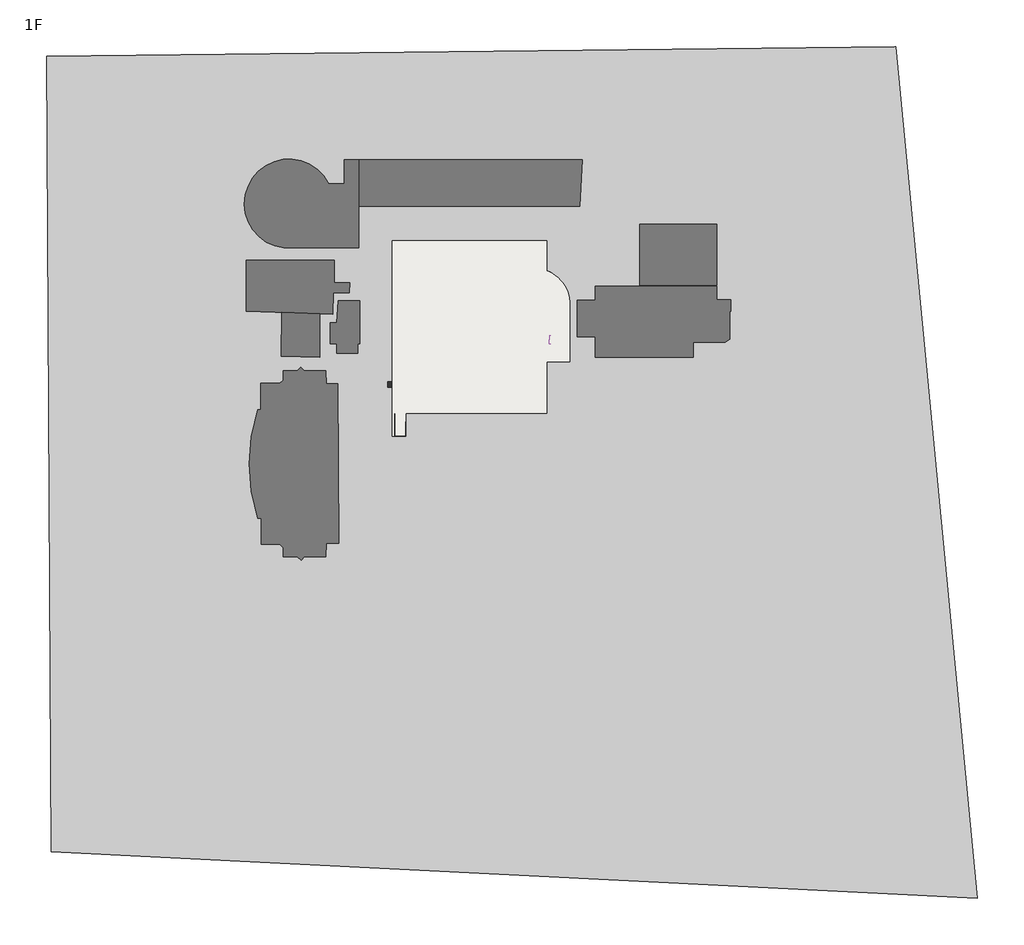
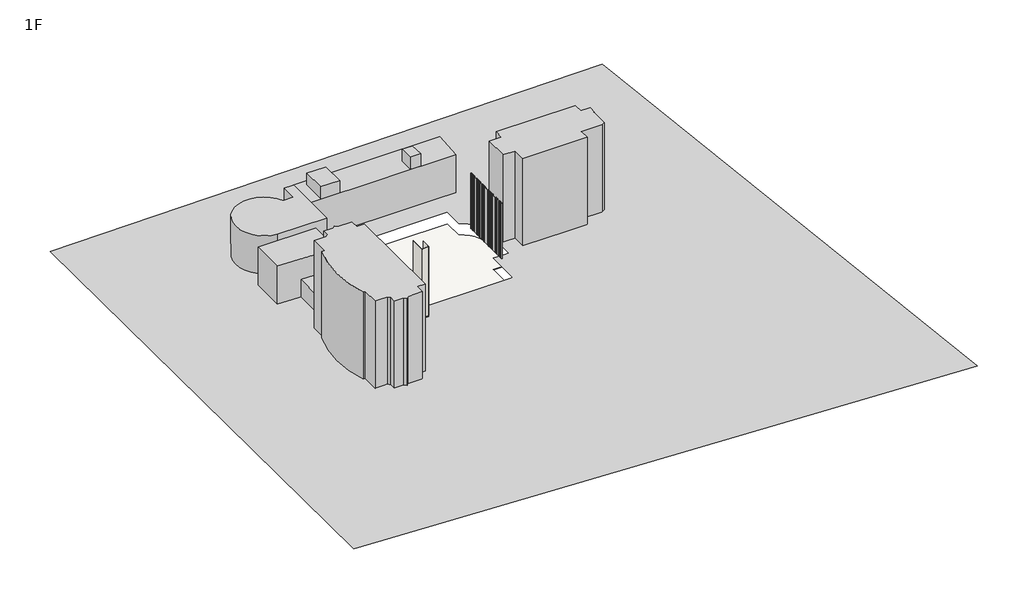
# One storey, incomplete: 4 walls, 1 geographic element, 1 proxy, 1 railing, 1 slab.
"""IFC4 building model written with IfcOpenShell, lengths in millimetres."""

from ifc_helpers import new_model, si_unit, point, frame, frame_2d, origin, place, context, project, spatial, polyline, circle_curve, trimmed, segment, composite_curve, outline, extrude, faceted_brep, triangles, transform, mapped, element, save
from components import geographic_element_4dbcac5b, railing_ae81b5d6, wall_d95d6aa4

model = new_model("IFC4")

# Units and contexts
model_context = context("Model", 3, world=origin())
ifc_project = project(units=[si_unit("LENGTHUNIT", "METRE", prefix="MILLI")], contexts=[model_context])

# Site, building, storey
site = spatial("IfcSite", under=ifc_project)
building = spatial("IfcBuilding", under=site)
storey = spatial("IfcBuildingStorey", under=building, Name="1F", Elevation=0.0)

# Proxy
placement = place(None, origin())
element("IfcBuildingElementProxy", 1, Name="Building Element Proxy", at=placement, inside=storey, context=model_context, shape_type="Tessellation", body=[
    triangles([(-117111.3074707, 82250.0307129, 0.0), (-115799.9549561, -151345.3015869, 0.0), (156268.6568848, -165068.0639648, 0.0), (132321.1790771, 85087.4203125, 0.0), (29890.8685181, 28220.0960815, 0.0), (29890.8685181, 19305.851825, 0.0), (30803.2546875, 18894.3222931, 0.0), (31673.8364319, 18400.4710419, 0.0), (32495.2072266, 17828.5001404, 0.0), (33260.3814514, 17183.2778961, 0.0), (33962.8455505, 16470.2923462, 0.0), (34596.6208191, 15695.6117249, 0.0), (35156.3168884, 14865.8274902, 0.0), (35637.173584, 13987.9996765, 0.0), (36035.0934814, 13069.5975952, 0.0), (36346.6953918, 12118.4370483, 0.0), (36569.3259888, 11142.6094025, 0.0), (36701.0900391, 10150.4199646, 0.0), (36740.8690063, 9150.3094986, 0.0), (36740.8690063, -5990.3215668, 0.0), (36740.8690063, -7639.9051804, 0.0), (35009.7351379, -7639.9051804, 0.0), (29890.8685181, -7639.9051804, 0.0), (29890.8685181, -12517.6336121, 0.0), (29890.8685181, -13279.9045258, 0.0), (29890.8685181, -22779.9048889, 0.0), (19121.2677429, -22779.9048889, 0.0), (-11409.1315063, -22779.9048889, 0.0), (-11409.1315063, -29479.9052307, 0.0), (-15759.1311035, -29479.9052307, 0.0), (-15759.1311035, 28220.0960815, 0.0)], [[1, 2, 30], [30, 2, 29], [27, 29, 26], [22, 24, 25], [26, 29, 3], [27, 28, 29], [29, 2, 3], [4, 1, 31], [1, 30, 31], [7, 8, 5], [5, 6, 7], [8, 9, 5], [22, 23, 24], [4, 31, 5], [25, 26, 21], [4, 16, 17], [17, 18, 4], [20, 21, 4], [21, 22, 25], [4, 19, 20], [19, 4, 18], [26, 3, 21], [3, 4, 21], [13, 5, 12], [11, 5, 10], [5, 11, 12], [14, 15, 4], [4, 5, 13], [4, 13, 14], [15, 16, 4], [10, 5, 9]], closed=False),
])

# Geographic element
geographic_element_shape = geographic_element_4dbcac5b(model_context)
element("IfcGeographicElement", 2, ObjectType="建物1 : 建物1", at=placement, inside=storey, context=model_context, shape_type="MappedRepresentation", body=[
    mapped(geographic_element_shape, transform((0.0, 0.0, 0.0), x_axis=(1.0, 0.0, 0.0), y_axis=(0.0, 1.0, 0.0), z_axis=(0.0, 0.0, 1.0))),
])

# Railing
railing_shape = railing_ae81b5d6(model_context)
element("IfcRailing", 3, ObjectType="東向隔柵2 : 東向隔柵", at=placement, inside=storey, context=model_context, shape_type="MappedRepresentation", body=[
    mapped(railing_shape, transform((0.0, 0.0, 0.0), x_axis=(1.0, 0.0, 0.0), y_axis=(0.0, 1.0, 0.0), z_axis=(0.0, 0.0, 1.0))),
])

# Slab
element("IfcSlab", 4, ObjectType="建築地坪 1", at=placement, inside=storey, context=model_context, shape_type="SweptSolid", body=[
    extrude(outline(composite_curve([segment(polyline([(29890.8689947, 28220.0950739), (29890.8689947, 19305.8523583)]), True, "CONTINUOUS"), segment(trimmed(circle_curve(frame_2d((25890.4739475, 9219.5888409)), 10850.6162164), [point((29890.8689947, 19305.8523583))], [point((36740.8689947, 9150.309724))], False, "CARTESIAN"), True, "CONTINUOUS"), segment(polyline([(36740.8689947, 9150.309724), (36740.8689947, -7639.9049261), (29890.8689947, -7639.9049261), (29890.8689947, -13279.9049261), (29890.8689947, -22779.9049261), (-11409.1310053, -22779.9049261), (-11409.1310053, -29479.9049261), (-15759.1310053, -29479.9049261), (-15759.1310053, 28220.0950739), (29890.8689947, 28220.0950739)]), True, "CONTINUOUS")], self_intersect=False)), frame((0.0, 0.0, -5600.0), z_axis=(0.0, 0.0, 1.0), x_axis=(1.0, 0.0, 0.0)), (0.0, 0.0, 1.0), 100.0),
])

# Walls
element("IfcWall", 5, ObjectType="金屬網", at=placement, inside=storey, context=model_context, shape_type="Brep", body=[
    faceted_brep([(-14836.6310056, -22779.9049261, 500.0), (-14836.6310056, -29407.4049261, 500.0), (-14836.6310056, -29407.4049261, 33250.0), (-14836.6310056, -22779.9049261, 33250.0), (-14831.6310056, -22779.9049261, 500.0), (-14831.6310056, -22779.9049261, 33250.0), (-14831.6310056, -29402.4049261, 33250.0), (-14831.6310056, -29407.4049261, 33250.0), (-14831.6310056, -29407.4049261, 500.0), (-14831.6310056, -29402.4049261, 500.0)], [[[0, 1, 2, 3]], [[4, 5, 6, 7, 8, 9]], [[1, 0, 4, 9, 8]], [[3, 2, 7, 6, 5]], [[0, 3, 5, 4]], [[2, 1, 8, 7]]]),
])
element("IfcWall", 6, ObjectType="金屬網", at=placement, inside=storey, context=model_context, shape_type="Brep", body=[
    faceted_brep([(-14831.6310056, -29407.4049261, 500.0), (-11681.6310053, -29407.4049261, 500.0), (-11681.6310053, -29407.4049261, 33250.0), (-14831.6310056, -29407.4049261, 33250.0), (-14831.6310056, -29402.4049261, 500.0), (-14831.6310056, -29402.4049261, 33250.0), (-11686.6310053, -29402.4049261, 33250.0), (-11681.6310053, -29402.4049261, 33250.0), (-11681.6310053, -29402.4049261, 500.0), (-11686.6310053, -29402.4049261, 500.0)], [[[0, 1, 2, 3]], [[4, 5, 6, 7, 8, 9]], [[0, 3, 5, 4]], [[1, 0, 4, 9, 8]], [[3, 2, 7, 6, 5]], [[2, 1, 8, 7]]]),
])
element("IfcWall", 7, ObjectType="金屬網", at=placement, inside=storey, context=model_context, shape_type="SweptSolid", body=[
    extrude(outline(polyline([(-11681.6310053, -25029.9049261), (-11681.6310053, -29402.4049261), (-11686.6310053, -29402.4049261), (-11686.6310053, -25029.9049261), (-11681.6310053, -25029.9049261)])), frame((0.0, 0.0, 500.0), z_axis=(0.0, 0.0, 1.0), x_axis=(1.0, 0.0, 0.0)), (0.0, 0.0, 1.0), 32750.0),
])
wall_shape = wall_d95d6aa4(model_context)
element("IfcWall", 8, ObjectType="消防土地公 : 消防土地公", at=placement, inside=storey, context=model_context, shape_type="MappedRepresentation", body=[
    mapped(wall_shape, transform((0.0, 0.0, 0.0), x_axis=(1.0, 0.0, 0.0), y_axis=(0.0, 1.0, 0.0), z_axis=(0.0, 0.0, 1.0))),
])

save(model, "model.ifc")
